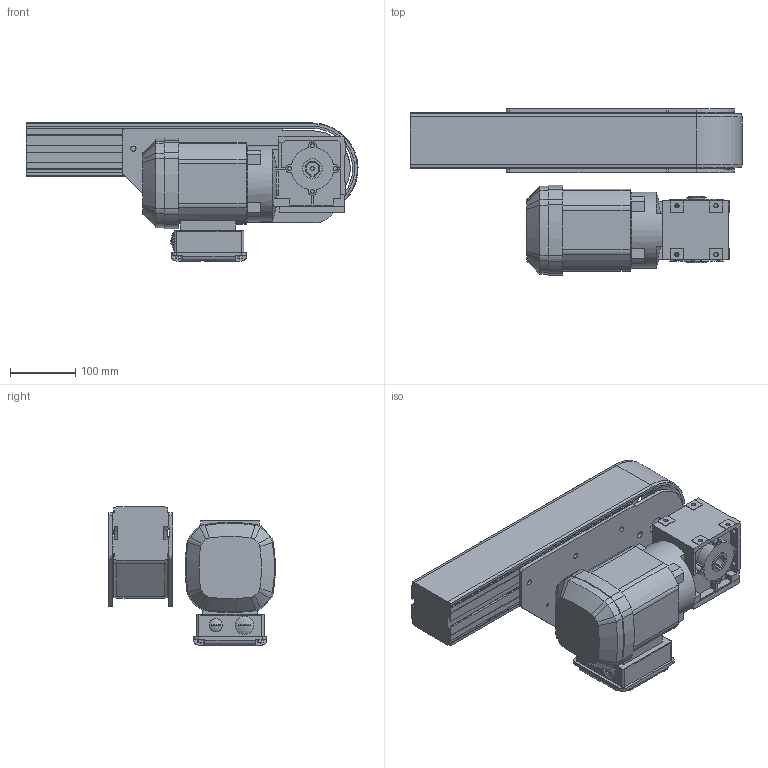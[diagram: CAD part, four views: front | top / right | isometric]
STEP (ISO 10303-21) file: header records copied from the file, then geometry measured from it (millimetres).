
FILE_DESCRIPTION((''),'2;1');
FILE_NAME('C:\Vault Klient\Projekt\Koncept konstruktion\Serie 830 Drivenhet\830-360H.stp','2009-12-01T08:05:02',('Mathias'),(''),'Autodesk Inventor 2010','Autodesk Inventor 2010','');
FILE_SCHEMA(('CONFIG_CONTROL_DESIGN'));
Length unit declared in the file: millimetre
Products named in the file (1): 830-360H
Bounding box: 509.96 x 255.64 x 212 mm (x, y, z)
Volume: 7809683.3 mm3; surface area: 634534.8 mm2
Topology: 5 solids, 5 shells, 607 faces, 1698 edges, 1112 vertices
Faces by surface type: plane 382, cylinder 191, bspline 20, cone 12, sphere 2
Full cylindrical faces by diameter (mm): 6 x9, 6.6 x8, 8 x6, 10 x4, 20 x1, 25 x1, 26 x2, 28 x1, 30 x2, 117 x1
Entity records: 20348 total; most frequent: CARTESIAN_POINT 3922, ORIENTED_EDGE 3286, DIRECTION 3224, EDGE_CURVE 1643, VECTOR 1146, LINE 1146, VERTEX_POINT 1101, AXIS2_PLACEMENT_3D 1039
